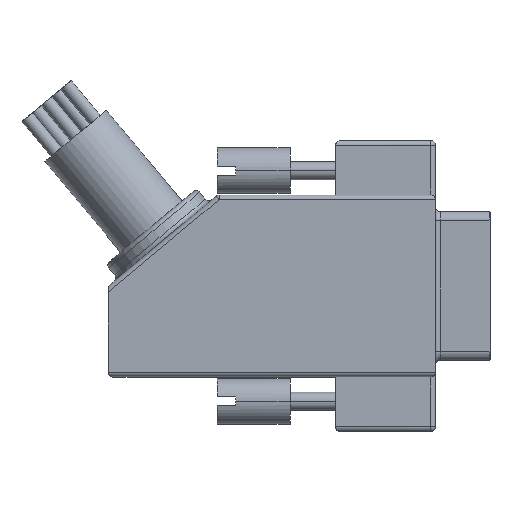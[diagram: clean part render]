
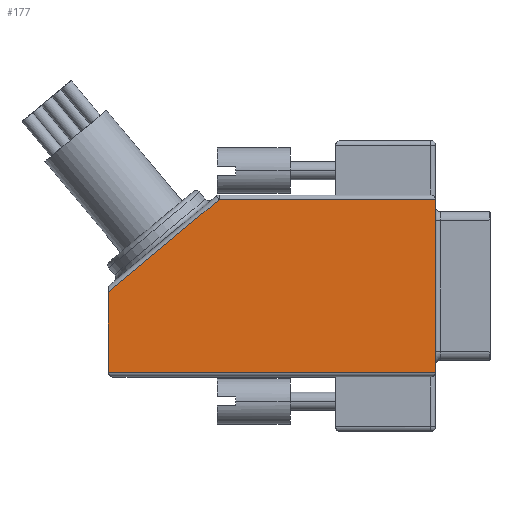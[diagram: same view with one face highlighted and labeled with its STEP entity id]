
A CAD part, top view. The second image highlights one B-rep face of the part: STEP entity #177.
In plain terms, the highlighted planar face has unit normal (0, 0, 1).
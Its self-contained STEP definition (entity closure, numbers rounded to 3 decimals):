
#146 = AXIS2_PLACEMENT_3D ( 'NONE', #1752, #4687, #3397 ) ;
#177 = ADVANCED_FACE ( 'NONE', ( #4579 ), #2228, .F. ) ;
#318 = EDGE_CURVE ( 'NONE', #4430, #3267, #3152, .T. ) ;
#382 = EDGE_CURVE ( 'NONE', #4703, #4430, #3930, .T. ) ;
#466 = VECTOR ( 'NONE', #2687, 1000. ) ;
#807 = CARTESIAN_POINT ( 'NONE',  ( 24., 9.5, 7.5 ) ) ;
#823 = CARTESIAN_POINT ( 'NONE',  ( -12., -10., 7.5 ) ) ;
#874 = CARTESIAN_POINT ( 'NONE',  ( -12., -0.651, 7.5 ) ) ;
#1023 = ORIENTED_EDGE ( 'NONE', *, *, #2107, .F. ) ;
#1258 = CARTESIAN_POINT ( 'NONE',  ( -11.68, -0.384, 7.5 ) ) ;
#1310 = CARTESIAN_POINT ( 'NONE',  ( 24., 10., 7.5 ) ) ;
#1442 = ORIENTED_EDGE ( 'NONE', *, *, #2155, .T. ) ;
#1463 = CARTESIAN_POINT ( 'NONE',  ( 24., -9.5, 7.5 ) ) ;
#1475 = VECTOR ( 'NONE', #3779, 1000. ) ;
#1550 = CARTESIAN_POINT ( 'NONE',  ( 0.181, 9.5, 7.5 ) ) ;
#1752 = CARTESIAN_POINT ( 'NONE',  ( 24., 10., 7.5 ) ) ;
#1879 = ORIENTED_EDGE ( 'NONE', *, *, #318, .T. ) ;
#2107 = EDGE_CURVE ( 'NONE', #2297, #3267, #2133, .T. ) ;
#2133 = LINE ( 'NONE', #1310, #1475 ) ;
#2155 = EDGE_CURVE ( 'NONE', #2304, #4703, #3724, .T. ) ;
#2228 = PLANE ( 'NONE',  #146 ) ;
#2297 = VERTEX_POINT ( 'NONE', #4688 ) ;
#2304 = VERTEX_POINT ( 'NONE', #1550 ) ;
#2386 = DIRECTION ( 'NONE',  ( 0., -1., 0. ) ) ;
#2526 = ORIENTED_EDGE ( 'NONE', *, *, #382, .T. ) ;
#2592 = EDGE_CURVE ( 'NONE', #2297, #2304, #4510, .T. ) ;
#2687 = DIRECTION ( 'NONE',  ( 1., 0., 0. ) ) ;
#2797 = CARTESIAN_POINT ( 'NONE',  ( -12., -9.5, 7.5 ) ) ;
#2907 = DIRECTION ( 'NONE',  ( -0.768, -0.64, 0. ) ) ;
#2967 = VECTOR ( 'NONE', #2386, 1000. ) ;
#3083 = EDGE_LOOP ( 'NONE', ( #4484, #1442, #2526, #1879, #1023 ) ) ;
#3152 = LINE ( 'NONE', #1463, #466 ) ;
#3267 = VERTEX_POINT ( 'NONE', #5315 ) ;
#3397 = DIRECTION ( 'NONE',  ( -1., 0., 0. ) ) ;
#3724 = LINE ( 'NONE', #1258, #5192 ) ;
#3779 = DIRECTION ( 'NONE',  ( 0., -1., 0. ) ) ;
#3930 = LINE ( 'NONE', #823, #2967 ) ;
#4430 = VERTEX_POINT ( 'NONE', #2797 ) ;
#4484 = ORIENTED_EDGE ( 'NONE', *, *, #2592, .T. ) ;
#4510 = LINE ( 'NONE', #807, #4668 ) ;
#4579 = FACE_OUTER_BOUND ( 'NONE', #3083, .T. ) ;
#4668 = VECTOR ( 'NONE', #4793, 1000. ) ;
#4687 = DIRECTION ( 'NONE',  ( 0., 0., -1. ) ) ;
#4688 = CARTESIAN_POINT ( 'NONE',  ( 24., 9.5, 7.5 ) ) ;
#4703 = VERTEX_POINT ( 'NONE', #874 ) ;
#4793 = DIRECTION ( 'NONE',  ( -1., 0., 0. ) ) ;
#5192 = VECTOR ( 'NONE', #2907, 1000. ) ;
#5315 = CARTESIAN_POINT ( 'NONE',  ( 24., -9.5, 7.5 ) ) ;
